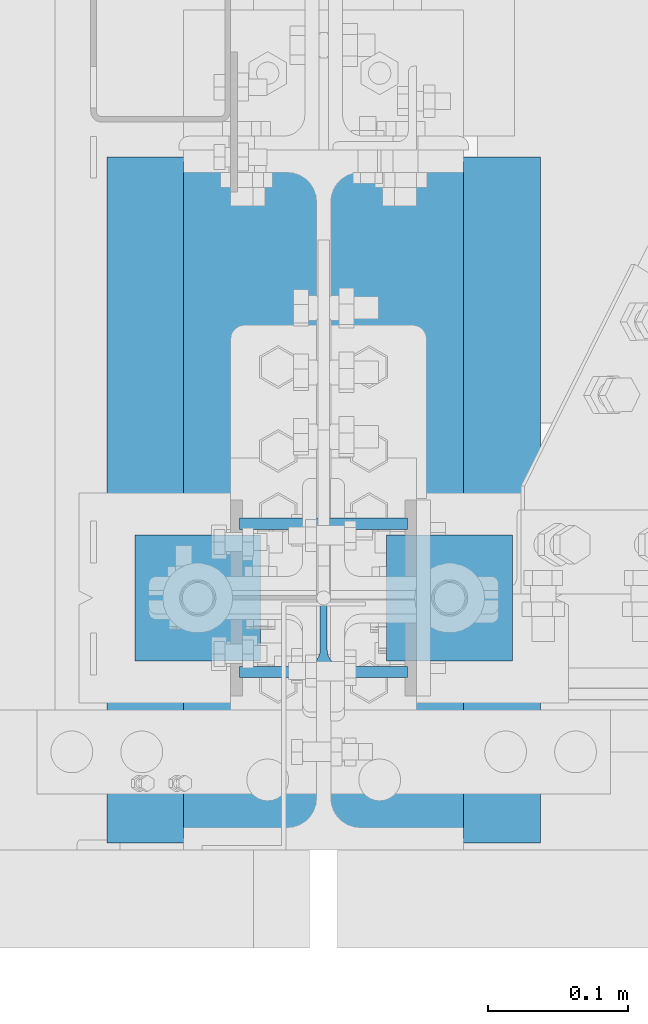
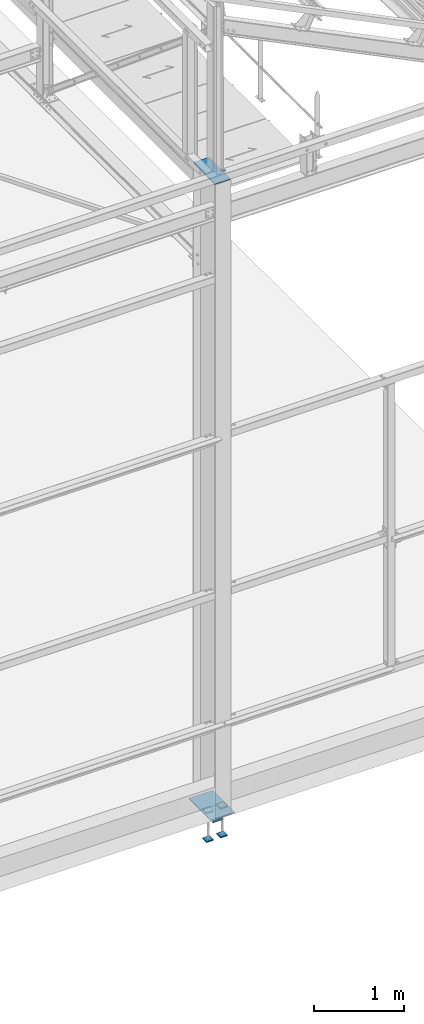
# One storey, part 103 of 362: 7 beams, 2 elements without a shape of their own.
"""IFC2X3 building model written with IfcOpenShell, lengths in millimetres."""

from ifc_helpers import new_model, si_unit, frame, origin_with_axes, origin_2d_with_axis, place, context, subcontext, project, spatial, polyline, rectangle, i_section, outline, extrude, material, type_object, element, aggregate, save


model = new_model("IFC2X3")

# Units and contexts
model_context = context("Model", 3, precision=1e-05, world=origin_with_axes())
body_context = subcontext(model_context, "Body", "Model", "MODEL_VIEW")
ifc_project = project(units=[si_unit("LENGTHUNIT", "METRE", prefix="MILLI"), si_unit("AREAUNIT", "SQUARE_METRE"), si_unit("VOLUMEUNIT", "CUBIC_METRE"), si_unit("MASSUNIT", "GRAM", prefix="KILO"), si_unit("TIMEUNIT", "SECOND"), si_unit("PLANEANGLEUNIT", "RADIAN"), si_unit("SOLIDANGLEUNIT", "STERADIAN"), si_unit("THERMODYNAMICTEMPERATUREUNIT", "DEGREE_CELSIUS"), si_unit("LUMINOUSINTENSITYUNIT", "LUMEN")], contexts=[model_context])

# Site, building, storey
site_placement = place(None, origin_with_axes())
site = spatial("IfcSite", under=ifc_project, at=site_placement, Name="Undefined", CompositionType="ELEMENT")
building_placement = place(site_placement, origin_with_axes())
building = spatial("IfcBuilding", under=site, at=building_placement, Name="Undefined", CompositionType="ELEMENT")
storey_placement = place(building_placement, origin_with_axes())
storey = spatial("IfcBuildingStorey", under=building, at=storey_placement, Name="Undefined", CompositionType="ELEMENT", Elevation=0.0)

# Assembly, beams
assembly_1_placement = place(storey_placement, origin_with_axes())
assembly_1 = element("IfcElementAssembly", 1, at=assembly_1_placement, inside=storey, Name="POTEAU", AssemblyPlace="NOTDEFINED", PredefinedType="NOTDEFINED")
ifc_material_1 = material(Name="Undefined/S235-E24")
beam_type_1 = type_object("IfcBeamType", Name="PL10*200", PredefinedType="NOTDEFINED")
beam_1_placement = place(assembly_1_placement, frame((34280.0, 312.0, 8445.0), z_axis=(1.0, 0.0, 0.0), x_axis=(0.0, -1.0, 0.0)))
beam_1 = element("IfcBeam", 2, at=beam_1_placement, type_object=beam_type_1, material=ifc_material_1, Name="COIFFE", ObjectType="PL10*200", context=body_context, shape_type="SweptSolid", body=[
    extrude(rectangle(XDim=10.0, YDim=200.0, at=origin_2d_with_axis()), frame((484.0, 0.0, 0.0), z_axis=(-1.0, 0.0, 0.0), x_axis=(0.0, -1.0, 0.0)), (0.0, 0.0, 1.0), 484.0),
])
beam_type_2 = type_object("IfcBeamType", Name="PL15*490", PredefinedType="NOTDEFINED")
beam_2_placement = place(assembly_1_placement, frame((34434.9971504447, 70.0, -192.5), z_axis=(0.0, -1.0, 0.0), x_axis=(-1.0, 0.0, 0.0)))
beam_2 = element("IfcBeam", 3, at=beam_2_placement, type_object=beam_type_2, material=ifc_material_1, Name="PLATINE", ObjectType="PL15*490", context=body_context, shape_type="SweptSolid", body=[
    extrude(rectangle(XDim=15.0, YDim=490.0, at=origin_2d_with_axis()), frame((310.0, 0.0, 0.0), z_axis=(-1.0, 0.0, 0.0), x_axis=(0.0, -1.0, 0.0)), (0.0, 0.0, 1.0), 310.0),
])
aggregate(assembly_1, [beam_2, beam_1])

assembly_2_placement = place(storey_placement, origin_with_axes())
assembly_2 = element("IfcElementAssembly", 4, at=assembly_2_placement, inside=storey, Name="PRESCELLEMENT PS24", AssemblyPlace="NOTDEFINED", PredefinedType="NOTDEFINED")
beam_type_3 = type_object("IfcBeamType", Name="PL15*90", PredefinedType="NOTDEFINED")
beam_3_placement = place(assembly_2_placement, frame((34234.9971504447, -45.0, -177.5), z_axis=(0.0, 0.0, 1.0), x_axis=(0.0, 1.0, 0.0)))
beam_3 = element("IfcBeam", 5, at=beam_3_placement, type_object=beam_type_3, material=ifc_material_1, Name="PLAQUETTE", ObjectType="PL15*90", context=body_context, shape_type="SweptSolid", body=[
    extrude(outline(polyline([(0.0, 0.0), (90.0, 0.0), (90.0, 90.0), (0.0, 90.0), (0.0, 0.0)])), frame((0.0, 0.0, -7.5), z_axis=(0.0, 0.0, 1.0), x_axis=(1.0, 0.0, 0.0)), (0.0, 0.0, 1.0), 15.0),
])
beam_4_placement = place(assembly_2_placement, frame((34414.9971504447, -45.0, -177.5), z_axis=(0.0, 0.0, 1.0), x_axis=(0.0, 1.0, 0.0)))
beam_4 = element("IfcBeam", 6, at=beam_4_placement, type_object=beam_type_3, material=ifc_material_1, Name="PLAQUETTE", ObjectType="PL15*90", context=body_context, shape_type="SweptSolid", body=[
    extrude(outline(polyline([(0.0, 0.0), (90.0, 0.0), (90.0, 90.0), (0.0, 90.0), (0.0, 0.0)])), frame((0.0, 0.0, -7.5), z_axis=(0.0, 0.0, 1.0), x_axis=(1.0, 0.0, 0.0)), (0.0, 0.0, 1.0), 15.0),
])
beam_5_placement = place(assembly_2_placement, frame((34234.9971504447, -45.0, -572.5), z_axis=(0.0, 0.0, 1.0), x_axis=(0.0, 1.0, 0.0)))
beam_5 = element("IfcBeam", 7, at=beam_5_placement, type_object=beam_type_3, material=ifc_material_1, Name="PLAQUETTE", ObjectType="PL15*90", context=body_context, shape_type="SweptSolid", body=[
    extrude(outline(polyline([(0.0, 0.0), (90.0, 0.0), (90.0, 90.0), (0.0, 90.0), (0.0, 0.0)])), frame((0.0, 0.0, -7.5), z_axis=(0.0, 0.0, 1.0), x_axis=(1.0, 0.0, 0.0)), (0.0, 0.0, 1.0), 15.0),
])
beam_6_placement = place(assembly_2_placement, frame((34414.9971504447, -45.0, -572.5), z_axis=(0.0, 0.0, 1.0), x_axis=(0.0, 1.0, 0.0)))
beam_6 = element("IfcBeam", 8, at=beam_6_placement, type_object=beam_type_3, material=ifc_material_1, Name="PLAQUETTE", ObjectType="PL15*90", context=body_context, shape_type="SweptSolid", body=[
    extrude(outline(polyline([(0.0, 0.0), (90.0, 0.0), (90.0, 90.0), (0.0, 90.0), (0.0, 0.0)])), frame((0.0, 0.0, -7.5), z_axis=(0.0, 0.0, 1.0), x_axis=(1.0, 0.0, 0.0)), (0.0, 0.0, 1.0), 15.0),
])
ifc_material_2 = material(Name="Undefined/S275-E28")
beam_type_4 = type_object("IfcBeamType", Name="HEA120", PredefinedType="NOTDEFINED")
beam_7_placement = place(assembly_2_placement, frame((34280.0000000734, 0.0, -210.0), z_axis=(0.0, -1.0, 0.0), x_axis=(0.0, 0.0, -1.0)))
beam_7 = element("IfcBeam", 9, at=beam_7_placement, type_object=beam_type_4, material=ifc_material_2, Name="BECHE", ObjectType="HEA120", context=body_context, shape_type="SweptSolid", body=[
    extrude(i_section(OverallWidth=120.0, OverallDepth=114.0, WebThickness=5.0, FlangeThickness=8.0, FilletRadius=12.0, at=origin_2d_with_axis()), frame((120.0, 0.0, 0.0), z_axis=(-1.0, 0.0, 0.0), x_axis=(0.0, -1.0, 0.0)), (0.0, 0.0, 1.0), 120.0),
])
aggregate(assembly_2, [beam_7, beam_3, beam_4, beam_5, beam_6])

save(model, "model.ifc")
